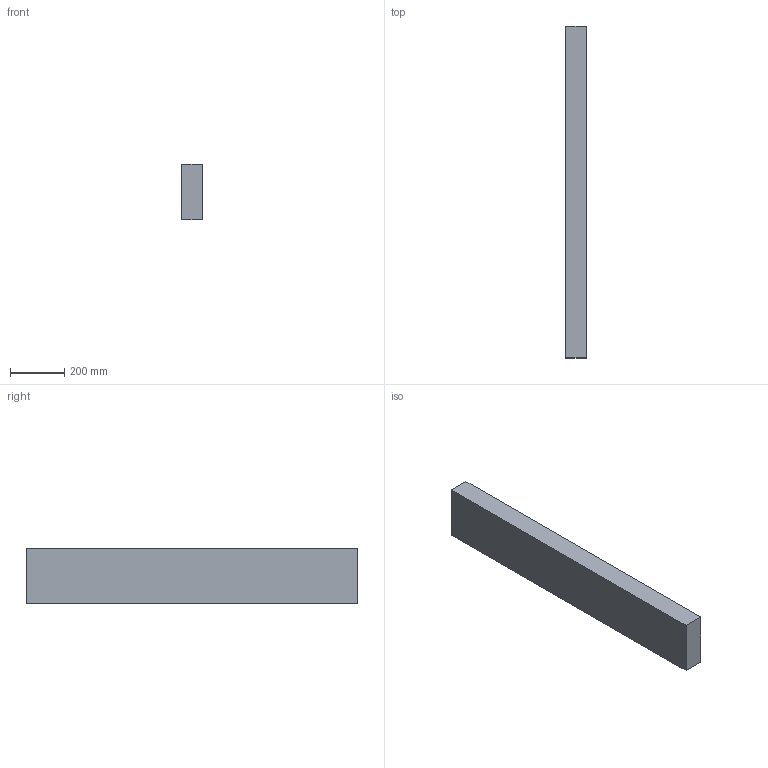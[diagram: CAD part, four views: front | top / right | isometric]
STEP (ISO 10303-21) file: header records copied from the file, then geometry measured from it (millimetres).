
FILE_DESCRIPTION(/* description */ (''),/* implementation_level */ '2;1');
FILE_NAME(/* name */ '3x8x48',/* time_stamp */ '2024-09-20T11:43:32-05:00',/* author */ (''),/* organization */ (''),/* preprocessor_version */ 'ST-DEVELOPER v19.2',/* originating_system */ 'Rhino 8.5',/* authorisation */ '');
FILE_SCHEMA (('CONFIG_CONTROL_DESIGN'));
Length unit declared in the file: inch
Products named in the file (1): Document
Bounding box: 76.2 x 1219.2 x 203.2 mm (x, y, z)
Volume: 18877897.7 mm3; surface area: 712256.6 mm2
Topology: 1 solids, 1 shells, 6 faces, 12 edges, 8 vertices
Faces by surface type: plane 6
Entity records: 226 total; most frequent: CARTESIAN_POINT 40, ORIENTED_EDGE 24, EDGE_CURVE 12, B_SPLINE_CURVE_WITH_KNOTS 12, DIRECTION 10, VERTEX_POINT 8, AXIS2_PLACEMENT_3D 8, ORGANIZATION 7
